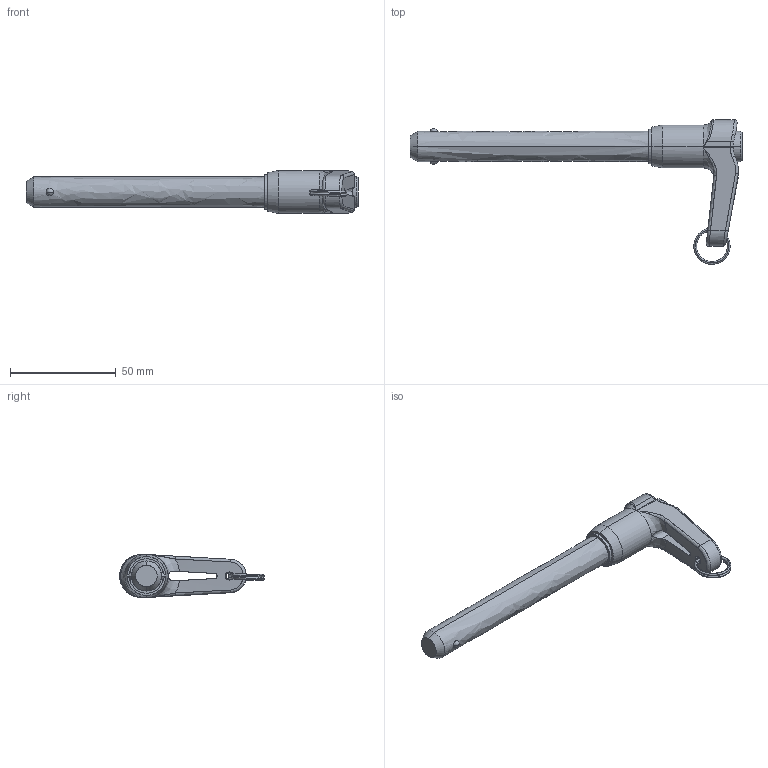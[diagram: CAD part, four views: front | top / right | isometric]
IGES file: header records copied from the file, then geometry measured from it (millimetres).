
Start section: SolidWorks IGES file using analytic representation for surfaces
Global section: file name: C:\Documents and Settings\IANO\My Documents\Wix and Auto CAD Work\CAD Models\Parametric Models\Wix Models\30000\33620_v2\33620_v2_20160606_IGES\33620.G040.igs; native system: SolidWorks 2009; preprocessor: SolidWorks 2009; author: IANO; date: 160615.130207; units: inch
Bounding box: 157.23 x 68.51 x 20.32 mm (x, y, z)
Surface area: 14759.6 mm2 (no closed solid volume)
Topology: 0 solids, 0 shells, 83 faces, 1227 edges, 1225 vertices
Faces by surface type: bspline 53, revolution 30
